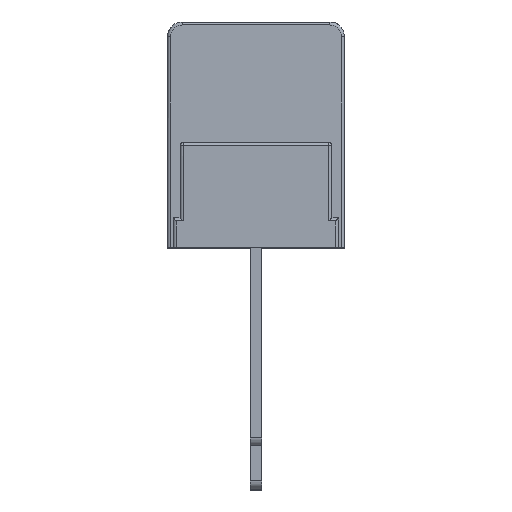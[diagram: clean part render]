
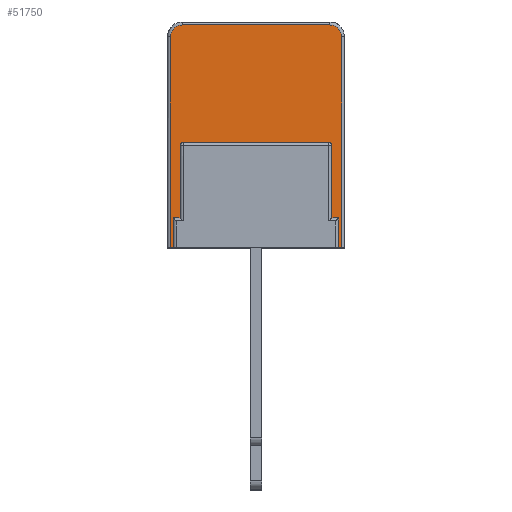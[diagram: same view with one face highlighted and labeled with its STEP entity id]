
A CAD part, top view. The second image highlights one B-rep face of the part: STEP entity #51750.
In plain terms, the highlighted planar face has unit normal (0, 0.009, 1).
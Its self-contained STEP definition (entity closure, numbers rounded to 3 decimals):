
#22064=DIRECTION('',(0.,-1.,0.009));
#22065=VECTOR('',#22064,14.302);
#22066=CARTESIAN_POINT('',(11.8,14.303,
-6.783));
#22067=LINE('',#22066,#22065);
#22073=DIRECTION('',(1.,0.,0.));
#22074=VECTOR('',#22073,11.6);
#22075=CARTESIAN_POINT('',(0.2,0.002,-6.658));
#22076=LINE('',#22075,#22074);
#22077=CARTESIAN_POINT('',(1.,14.304,
-6.783));
#22078=DIRECTION('',(0.,0.009,1.));
#22079=DIRECTION('',(0.,1.,-0.009));
#22080=AXIS2_PLACEMENT_3D('',#22077,#22078,#22079);
#22086=DIRECTION('',(0.,1.,-0.009));
#22087=VECTOR('',#22086,5.6);
#22088=CARTESIAN_POINT('',(1.65,1.502,-6.671));
#22089=LINE('',#22088,#22087);
#22110=DIRECTION('',(-1.,0.,0.));
#22111=VECTOR('',#22110,0.6);
#22112=CARTESIAN_POINT('',(1.65,7.102,-6.72));
#22113=LINE('',#22112,#22111);
#22119=DIRECTION('',(-1.,0.,0.));
#22120=VECTOR('',#22119,4.57);
#22121=CARTESIAN_POINT('',(8.285,7.102,-6.72));
#22122=LINE('',#22121,#22120);
#22128=DIRECTION('',(-1.,0.,0.));
#22129=VECTOR('',#22128,0.6);
#22130=CARTESIAN_POINT('',(10.95,7.102,-6.72));
#22131=LINE('',#22130,#22129);
#22272=DIRECTION('',(1.,0.,0.));
#22273=VECTOR('',#22272,11.2);
#22274=CARTESIAN_POINT('',(0.4,0.502,-6.662));
#22275=LINE('',#22274,#22273);
#22280=DIRECTION('',(0.,1.,-0.009));
#22281=VECTOR('',#22280,1.5);
#22282=CARTESIAN_POINT('',(11.6,0.502,-6.662));
#22283=LINE('',#22282,#22281);
#22384=CARTESIAN_POINT('',(1.05,7.102,-6.72));
#22385=CARTESIAN_POINT('',(1.017,7.102,-6.72));
#22386=CARTESIAN_POINT('',(0.964,7.087,
-6.72));
#22387=CARTESIAN_POINT('',(0.906,7.046,
-6.72));
#22388=CARTESIAN_POINT('',(0.864,6.987,
-6.719));
#22389=CARTESIAN_POINT('',(0.85,6.935,-6.719));
#22390=CARTESIAN_POINT('',(0.85,6.902,-6.718));
#22396=DIRECTION('',(0.,-1.,0.009));
#22397=VECTOR('',#22396,4.9);
#22398=CARTESIAN_POINT('',(0.85,6.902,-6.718));
#22399=LINE('',#22398,#22397);
#22456=DIRECTION('',(0.,-1.,0.009));
#22457=VECTOR('',#22456,1.5);
#22458=CARTESIAN_POINT('',(0.4,2.002,-6.675));
#22459=LINE('',#22458,#22457);
#22464=DIRECTION('',(-1.,0.,0.));
#22465=VECTOR('',#22464,0.45);
#22466=CARTESIAN_POINT('',(0.85,2.002,-6.675));
#22467=LINE('',#22466,#22465);
#22492=CARTESIAN_POINT('',(11.15,6.902,-6.718));
#22493=CARTESIAN_POINT('',(11.15,6.935,-6.719));
#22494=CARTESIAN_POINT('',(11.136,6.987,
-6.719));
#22495=CARTESIAN_POINT('',(11.094,7.046,
-6.72));
#22496=CARTESIAN_POINT('',(11.036,7.087,
-6.72));
#22497=CARTESIAN_POINT('',(10.983,7.102,-6.72));
#22498=CARTESIAN_POINT('',(10.95,7.102,-6.72));
#22500=DIRECTION('',(0.,1.,-0.009));
#22501=VECTOR('',#22500,4.9);
#22502=CARTESIAN_POINT('',(11.15,2.002,-6.675));
#22503=LINE('',#22502,#22501);
#22512=DIRECTION('',(-1.,0.,0.));
#22513=VECTOR('',#22512,0.45);
#22514=CARTESIAN_POINT('',(11.6,2.002,-6.675));
#22515=LINE('',#22514,#22513);
#22540=DIRECTION('',(-1.,0.,0.));
#22541=VECTOR('',#22540,2.004);
#22542=CARTESIAN_POINT('',(3.654,1.502,
-6.671));
#22543=LINE('',#22542,#22541);
#22549=CARTESIAN_POINT('',(3.715,7.102,-6.72));
#22550=CARTESIAN_POINT('',(3.694,5.235,
-6.704));
#22551=CARTESIAN_POINT('',(3.674,3.368,
-6.687));
#22552=CARTESIAN_POINT('',(3.654,1.502,
-6.671));
#22558=CARTESIAN_POINT('',(8.346,1.502,
-6.671));
#22559=CARTESIAN_POINT('',(8.326,3.368,
-6.687));
#22560=CARTESIAN_POINT('',(8.306,5.235,
-6.704));
#22561=CARTESIAN_POINT('',(8.285,7.102,-6.72));
#22572=DIRECTION('',(-1.,0.,0.));
#22573=VECTOR('',#22572,2.004);
#22574=CARTESIAN_POINT('',(10.35,1.502,-6.671));
#22575=LINE('',#22574,#22573);
#22580=DIRECTION('',(0.,-1.,0.009));
#22581=VECTOR('',#22580,5.6);
#22582=CARTESIAN_POINT('',(10.35,7.102,-6.72));
#22583=LINE('',#22582,#22581);
#22600=DIRECTION('',(0.,1.,-0.009));
#22601=VECTOR('',#22600,14.302);
#22602=CARTESIAN_POINT('',(0.2,0.002,-6.658));
#22603=LINE('',#22602,#22601);
#22610=CARTESIAN_POINT('',(0.2,0.002,
-6.658));
#22633=DIRECTION('',(1.,0.,0.));
#22634=VECTOR('',#22633,10.);
#22635=CARTESIAN_POINT('',(1.,15.103,
-6.79));
#22636=LINE('',#22635,#22634);
#22646=CARTESIAN_POINT('',(11.,14.304,
-6.783));
#22647=DIRECTION('',(0.,-0.009,-1.));
#22648=DIRECTION('',(0.,1.,-0.009));
#22649=AXIS2_PLACEMENT_3D('',#22646,#22647,#22648);
#23239=VERTEX_POINT('',#22610);
#23240=CARTESIAN_POINT('',(11.8,0.002,-6.658));
#23241=VERTEX_POINT('',#23240);
#23246=CARTESIAN_POINT('',(0.2,14.303,
-6.783));
#23247=VERTEX_POINT('',#23246);
#23303=CARTESIAN_POINT('',(1.,15.103,
-6.79));
#23304=VERTEX_POINT('',#23303);
#23305=CARTESIAN_POINT('',(11.,15.103,
-6.79));
#23306=VERTEX_POINT('',#23305);
#23307=CARTESIAN_POINT('',(11.8,14.303,
-6.783));
#23308=VERTEX_POINT('',#23307);
#23309=CARTESIAN_POINT('',(1.65,7.102,-6.72));
#23310=CARTESIAN_POINT('',(1.05,7.102,-6.72));
#23311=VERTEX_POINT('',#23309);
#23312=VERTEX_POINT('',#23310);
#23313=VERTEX_POINT('',#22390);
#23314=CARTESIAN_POINT('',(0.85,2.002,-6.675));
#23315=VERTEX_POINT('',#23314);
#23316=CARTESIAN_POINT('',(0.4,2.002,-6.675));
#23317=VERTEX_POINT('',#23316);
#23318=CARTESIAN_POINT('',(0.4,0.502,-6.662));
#23319=VERTEX_POINT('',#23318);
#23320=CARTESIAN_POINT('',(11.6,0.502,-6.662));
#23321=VERTEX_POINT('',#23320);
#23322=CARTESIAN_POINT('',(11.6,2.002,-6.675));
#23323=VERTEX_POINT('',#23322);
#23324=CARTESIAN_POINT('',(11.15,2.002,-6.675));
#23325=VERTEX_POINT('',#23324);
#23326=CARTESIAN_POINT('',(11.15,6.902,-6.718));
#23327=VERTEX_POINT('',#23326);
#23328=VERTEX_POINT('',#22498);
#23329=CARTESIAN_POINT('',(10.35,7.102,-6.72));
#23330=VERTEX_POINT('',#23329);
#23331=CARTESIAN_POINT('',(10.35,1.502,-6.671));
#23332=VERTEX_POINT('',#23331);
#23333=CARTESIAN_POINT('',(8.346,1.502,
-6.671));
#23334=VERTEX_POINT('',#23333);
#23335=VERTEX_POINT('',#22561);
#23336=CARTESIAN_POINT('',(3.715,7.102,-6.72));
#23337=VERTEX_POINT('',#23336);
#23338=VERTEX_POINT('',#22552);
#23339=CARTESIAN_POINT('',(1.65,1.502,-6.671));
#23340=VERTEX_POINT('',#23339);
#51695=CARTESIAN_POINT('',(-0.768,7.102,-6.72));
#51696=DIRECTION('',(0.,0.009,1.));
#51697=DIRECTION('',(1.,0.,0.));
#51698=AXIS2_PLACEMENT_3D('',#51695,#51696,#51697);
#51699=PLANE('',#51698);
#51700=ORIENTED_EDGE('',*,*,#51585,.F.);
#51702=ORIENTED_EDGE('',*,*,#51701,.T.);
#51704=ORIENTED_EDGE('',*,*,#51703,.F.);
#51706=ORIENTED_EDGE('',*,*,#51705,.T.);
#51708=ORIENTED_EDGE('',*,*,#51707,.T.);
#51709=ORIENTED_EDGE('',*,*,#51688,.T.);
#51710=EDGE_LOOP('',(#51700,#51702,#51704,#51706,#51708,#51709));
#51711=FACE_OUTER_BOUND('',#51710,.F.);
#51713=ORIENTED_EDGE('',*,*,#51712,.T.);
#51715=ORIENTED_EDGE('',*,*,#51714,.T.);
#51717=ORIENTED_EDGE('',*,*,#51716,.T.);
#51719=ORIENTED_EDGE('',*,*,#51718,.T.);
#51721=ORIENTED_EDGE('',*,*,#51720,.T.);
#51723=ORIENTED_EDGE('',*,*,#51722,.T.);
#51725=ORIENTED_EDGE('',*,*,#51724,.T.);
#51727=ORIENTED_EDGE('',*,*,#51726,.T.);
#51729=ORIENTED_EDGE('',*,*,#51728,.T.);
#51731=ORIENTED_EDGE('',*,*,#51730,.T.);
#51733=ORIENTED_EDGE('',*,*,#51732,.T.);
#51735=ORIENTED_EDGE('',*,*,#51734,.T.);
#51737=ORIENTED_EDGE('',*,*,#51736,.T.);
#51739=ORIENTED_EDGE('',*,*,#51738,.T.);
#51741=ORIENTED_EDGE('',*,*,#51740,.T.);
#51743=ORIENTED_EDGE('',*,*,#51742,.T.);
#51745=ORIENTED_EDGE('',*,*,#51744,.T.);
#51747=ORIENTED_EDGE('',*,*,#51746,.T.);
#51748=EDGE_LOOP('',(#51713,#51715,#51717,#51719,#51721,#51723,#51725,#51727,
#51729,#51731,#51733,#51735,#51737,#51739,#51741,#51743,#51745,#51747));
#51749=FACE_BOUND('',#51748,.F.);
#51750=ADVANCED_FACE('',(#51711,#51749),#51699,.T.);
#22081=CIRCLE('',#22080,0.8);
#22391=B_SPLINE_CURVE_WITH_KNOTS('',3,(#22384,#22385,#22386,#22387,#22388,
#22389,#22390),.UNSPECIFIED.,.F.,.F.,(4,1,1,1,4),(0.,0.25,0.5,0.75,
1.),.UNSPECIFIED.);
#22499=B_SPLINE_CURVE_WITH_KNOTS('',3,(#22492,#22493,#22494,#22495,#22496,
#22497,#22498),.UNSPECIFIED.,.F.,.F.,(4,1,1,1,4),(0.,0.25,0.5,0.75,
1.),.UNSPECIFIED.);
#22553=B_SPLINE_CURVE_WITH_KNOTS('',3,(#22549,#22550,#22551,#22552),
.UNSPECIFIED.,.F.,.F.,(4,4),(0.,1.),.UNSPECIFIED.);
#22562=B_SPLINE_CURVE_WITH_KNOTS('',3,(#22558,#22559,#22560,#22561),
.UNSPECIFIED.,.F.,.F.,(4,4),(0.,1.),.UNSPECIFIED.);
#22650=CIRCLE('',#22649,0.8);
#51585=EDGE_CURVE('',#23239,#23241,#22076,.T.);
#51688=EDGE_CURVE('',#23308,#23241,#22067,.T.);
#51701=EDGE_CURVE('',#23239,#23247,#22603,.T.);
#51703=EDGE_CURVE('',#23304,#23247,#22081,.T.);
#51705=EDGE_CURVE('',#23304,#23306,#22636,.T.);
#51707=EDGE_CURVE('',#23306,#23308,#22650,.T.);
#51712=EDGE_CURVE('',#23340,#23311,#22089,.T.);
#51714=EDGE_CURVE('',#23311,#23312,#22113,.T.);
#51716=EDGE_CURVE('',#23312,#23313,#22391,.T.);
#51718=EDGE_CURVE('',#23313,#23315,#22399,.T.);
#51720=EDGE_CURVE('',#23315,#23317,#22467,.T.);
#51722=EDGE_CURVE('',#23317,#23319,#22459,.T.);
#51724=EDGE_CURVE('',#23319,#23321,#22275,.T.);
#51726=EDGE_CURVE('',#23321,#23323,#22283,.T.);
#51728=EDGE_CURVE('',#23323,#23325,#22515,.T.);
#51730=EDGE_CURVE('',#23325,#23327,#22503,.T.);
#51732=EDGE_CURVE('',#23327,#23328,#22499,.T.);
#51734=EDGE_CURVE('',#23328,#23330,#22131,.T.);
#51736=EDGE_CURVE('',#23330,#23332,#22583,.T.);
#51738=EDGE_CURVE('',#23332,#23334,#22575,.T.);
#51740=EDGE_CURVE('',#23334,#23335,#22562,.T.);
#51742=EDGE_CURVE('',#23335,#23337,#22122,.T.);
#51744=EDGE_CURVE('',#23337,#23338,#22553,.T.);
#51746=EDGE_CURVE('',#23338,#23340,#22543,.T.);
